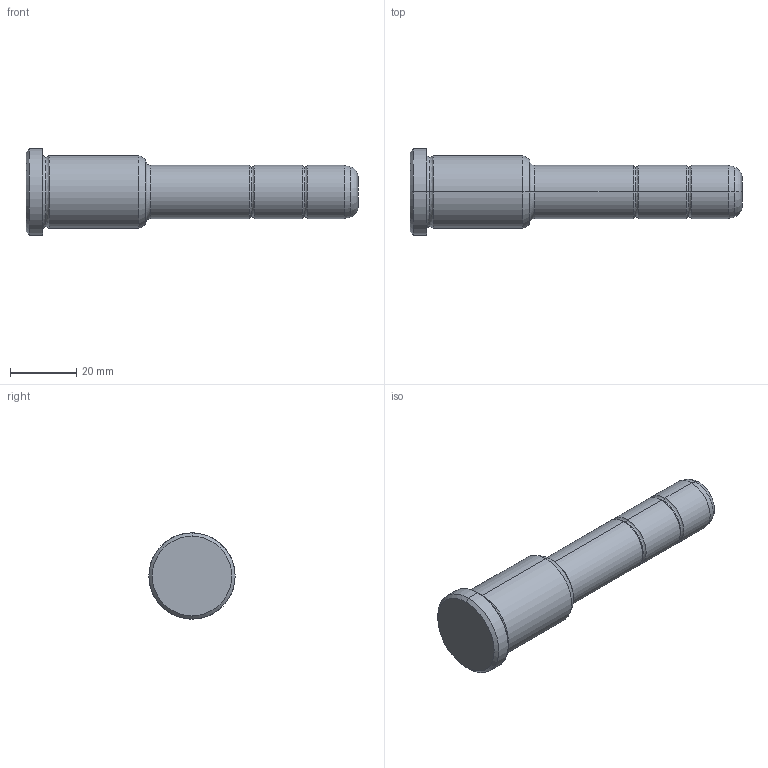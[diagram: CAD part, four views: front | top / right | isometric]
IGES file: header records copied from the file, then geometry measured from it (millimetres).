
Start section: START RECORD GO HERE.
Global section: file name: 351-16X36X100.igs; native system: DASSAULT SYSTEMES CATIA V5 R20 - www.3ds.com; preprocessor: CATIA Version 5 Release 20 ; author: Utente; organization: NB04-ASUS; date: 20210818.133710; units: millimetre
Bounding box: 100 x 26 x 26 mm (x, y, z)
Surface area: 6651.2 mm2 (no closed solid volume)
Topology: 0 solids, 0 shells, 36 faces, 204 edges, 204 vertices
Faces by surface type: revolution 32, plane 4
